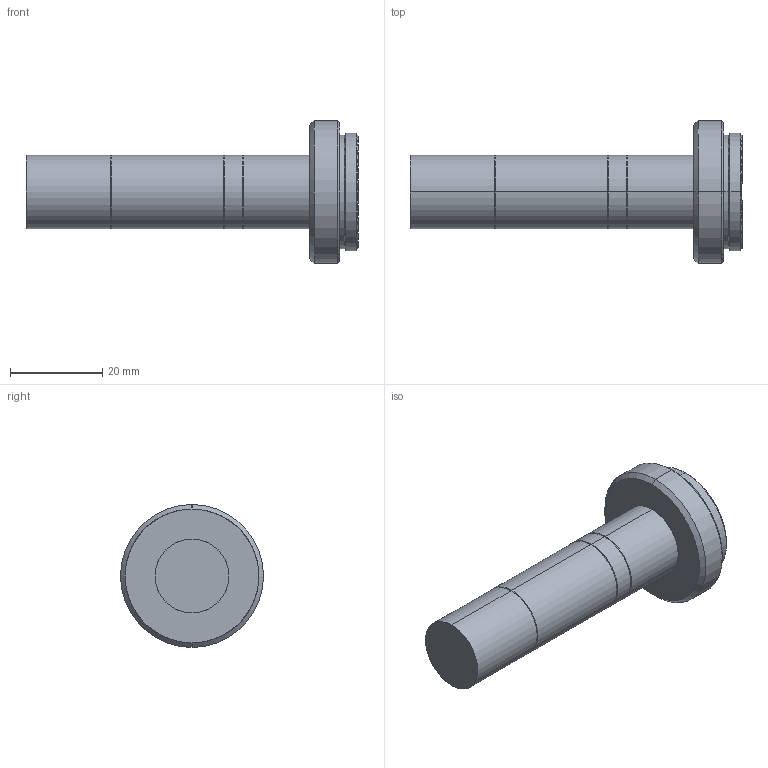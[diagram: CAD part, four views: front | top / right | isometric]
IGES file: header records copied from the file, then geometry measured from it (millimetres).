
Start section: SolidWorks IGES file using analytic representation for surfaces
Bounding box: 72 x 31 x 31 mm (x, y, z)
Surface area: 5500.8 mm2 (no closed solid volume)
Topology: 0 solids, 0 shells, 38 faces, 392 edges, 392 vertices
Faces by surface type: revolution 34, bspline 4
